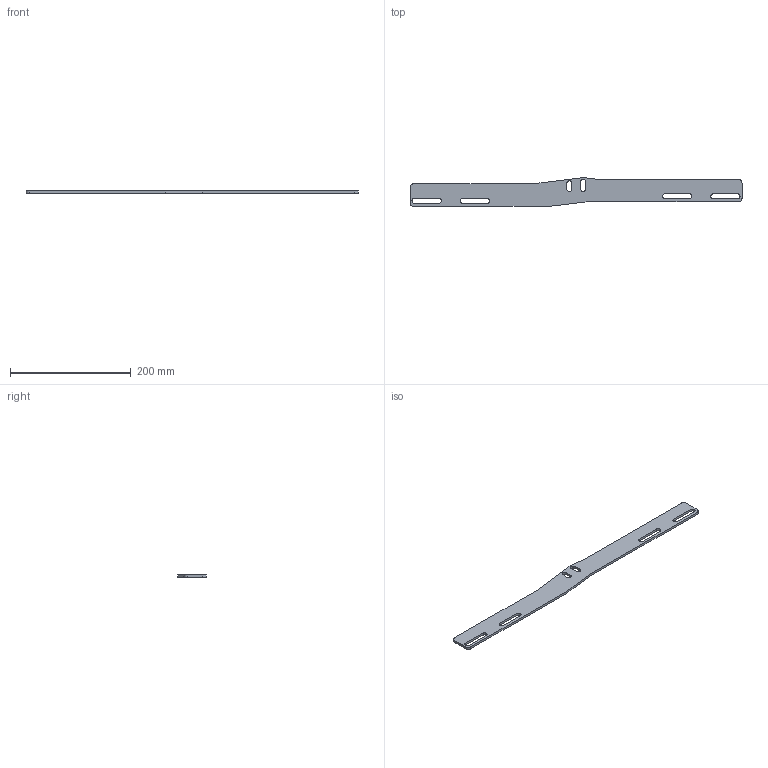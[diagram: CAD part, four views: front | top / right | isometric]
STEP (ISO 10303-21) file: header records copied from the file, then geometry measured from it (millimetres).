
FILE_DESCRIPTION(/* description */ ('CONNECTION STRIP WITH DIFFERENCE IN HEIGHT'),/* implementation_level */ '2;1');
FILE_NAME(/* name */ '500-7130.stp',/* time_stamp */ '2022-09-22T08:56:33+02:00',/* author */ ('PL'),/* organization */ ('CARRYLINE'),/* preprocessor_version */ 'ST-DEVELOPER v19.2',/* originating_system */ 'Autodesk Inventor 2023',/* authorisation */ '');
FILE_SCHEMA (('AUTOMOTIVE_DESIGN { 1 0 10303 214 3 1 1 }'));
Length unit declared in the file: millimetre
Products named in the file (1): 500-7130
Bounding box: 550 x 47.7 x 4 mm (x, y, z)
Volume: 75478.9 mm3; surface area: 44491.6 mm2
Topology: 1 solids, 1 shells, 44 faces, 126 edges, 84 vertices
Faces by surface type: plane 23, cylinder 21
Entity records: 1519 total; most frequent: DIRECTION 258, CARTESIAN_POINT 255, ORIENTED_EDGE 252, EDGE_CURVE 126, AXIS2_PLACEMENT_3D 87, LINE 84, VECTOR 84, VERTEX_POINT 84
